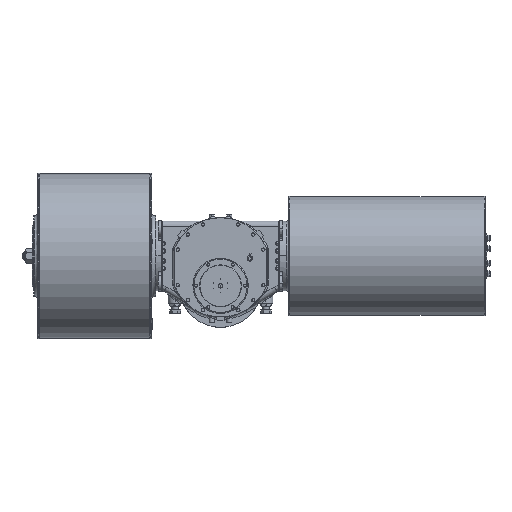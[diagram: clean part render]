
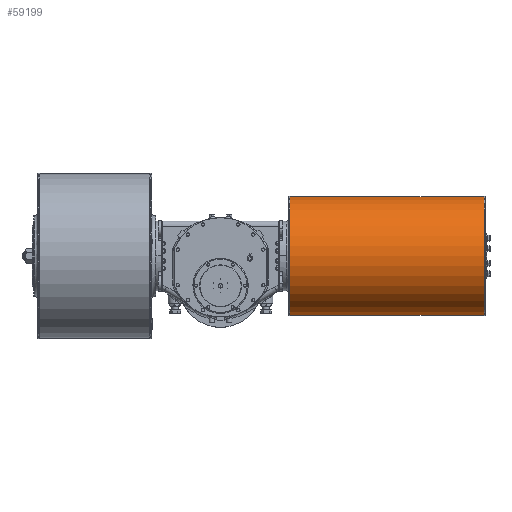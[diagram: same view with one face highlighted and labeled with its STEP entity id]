
A CAD part, top view. The second image highlights one B-rep face of the part: STEP entity #59199.
In plain terms, the highlighted cylindrical face has radius 340 mm (diameter 680 mm), a partial arc.
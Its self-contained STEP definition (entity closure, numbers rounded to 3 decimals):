
#1984 = ORIENTED_EDGE ( 'NONE', *, *, #66493, .T. ) ;
#11120 = VERTEX_POINT ( 'NONE', #38008 ) ;
#12714 = DIRECTION ( 'NONE',  ( -1., 0., 0. ) ) ;
#13332 = CARTESIAN_POINT ( 'NONE',  ( 395.885, 171., 138. ) ) ;
#14661 = DIRECTION ( 'NONE',  ( -1., 0., 0. ) ) ;
#18908 = VECTOR ( 'NONE', #12714, 1000. ) ;
#26684 = CYLINDRICAL_SURFACE ( 'NONE', #39398, 340. ) ;
#26750 = DIRECTION ( 'NONE',  ( 1., 0., 0. ) ) ;
#26884 = EDGE_CURVE ( 'NONE', #85591, #11120, #76410, .T. ) ;
#28158 = ORIENTED_EDGE ( 'NONE', *, *, #26884, .T. ) ;
#38008 = CARTESIAN_POINT ( 'NONE',  ( 395.885, 511., 138. ) ) ;
#38661 = DIRECTION ( 'NONE',  ( 0., -1., 0. ) ) ;
#39095 = CARTESIAN_POINT ( 'NONE',  ( 1508.115, 171., 138. ) ) ;
#39398 = AXIS2_PLACEMENT_3D ( 'NONE', #49474, #76772, #77643 ) ;
#42334 = VERTEX_POINT ( 'NONE', #76434 ) ;
#43281 = CARTESIAN_POINT ( 'NONE',  ( 1502., 511., 138. ) ) ;
#44440 = AXIS2_PLACEMENT_3D ( 'NONE', #13332, #26750, #75088 ) ;
#49474 = CARTESIAN_POINT ( 'NONE',  ( 1502., 171., 138. ) ) ;
#50139 = CARTESIAN_POINT ( 'NONE',  ( 1508.115, 511., 138. ) ) ;
#52210 = CARTESIAN_POINT ( 'NONE',  ( 1508.115, -169., 138. ) ) ;
#53942 = EDGE_CURVE ( 'NONE', #58981, #42334, #59676, .T. ) ;
#56898 = EDGE_CURVE ( 'NONE', #58981, #85591, #87900, .T. ) ;
#58981 = VERTEX_POINT ( 'NONE', #52210 ) ;
#59199 = ADVANCED_FACE ( 'NONE', ( #60677 ), #26684, .T. ) ;
#59676 = LINE ( 'NONE', #74468, #18908 ) ;
#60171 = ORIENTED_EDGE ( 'NONE', *, *, #53942, .F. ) ;
#60677 = FACE_OUTER_BOUND ( 'NONE', #68077, .T. ) ;
#66399 = AXIS2_PLACEMENT_3D ( 'NONE', #39095, #80265, #38661 ) ;
#66493 = EDGE_CURVE ( 'NONE', #11120, #42334, #83031, .T. ) ;
#68077 = EDGE_LOOP ( 'NONE', ( #77386, #28158, #1984, #60171 ) ) ;
#74468 = CARTESIAN_POINT ( 'NONE',  ( 1502., -169., 138. ) ) ;
#75088 = DIRECTION ( 'NONE',  ( 0., -1., 0. ) ) ;
#76410 = LINE ( 'NONE', #43281, #88349 ) ;
#76434 = CARTESIAN_POINT ( 'NONE',  ( 395.885, -169., 138. ) ) ;
#76772 = DIRECTION ( 'NONE',  ( -1., 0., 0. ) ) ;
#77386 = ORIENTED_EDGE ( 'NONE', *, *, #56898, .T. ) ;
#77643 = DIRECTION ( 'NONE',  ( 0., -1., 0. ) ) ;
#80265 = DIRECTION ( 'NONE',  ( -1., 0., 0. ) ) ;
#83031 = CIRCLE ( 'NONE', #44440, 340. ) ;
#85591 = VERTEX_POINT ( 'NONE', #50139 ) ;
#87900 = CIRCLE ( 'NONE', #66399, 340. ) ;
#88349 = VECTOR ( 'NONE', #14661, 1000. ) ;
